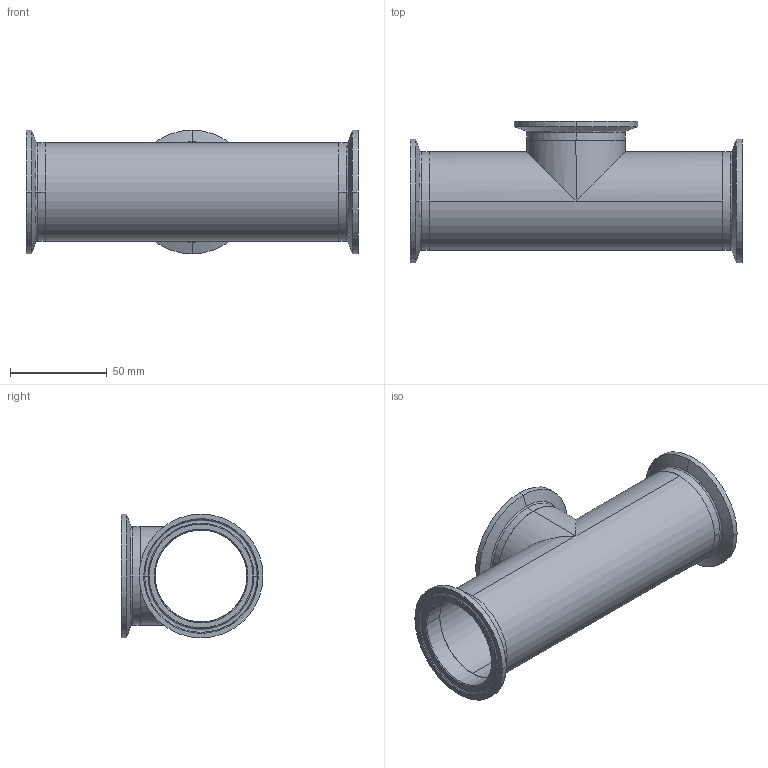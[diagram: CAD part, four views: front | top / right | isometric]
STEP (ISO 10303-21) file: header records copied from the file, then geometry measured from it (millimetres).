
FILE_DESCRIPTION (( 'STEP AP214' ), '1' );
FILE_NAME ('TEG7S6L2.0-...STEP', '2016-05-24T12:24:36', ( 'eran' ), ( '' ), 'SwSTEP 2.0', 'SolidWorks 2016', '' );
FILE_SCHEMA (( 'AUTOMOTIVE_DESIGN' ));
Length unit declared in the file: millimetre
Products named in the file (1): TEG7S6L2.0-..
Bounding box: 171.4 x 73.25 x 63.91 mm (x, y, z)
Volume: 59918.6 mm3; surface area: 65028.6 mm2
Topology: 4 solids, 4 shells, 88 faces, 220 edges, 142 vertices
Faces by surface type: bspline 30, cylinder 28, cone 18, plane 12
Entity records: 6052 total; most frequent: CARTESIAN_POINT 3914, DIRECTION 448, ORIENTED_EDGE 440, EDGE_CURVE 220, AXIS2_PLACEMENT_3D 200, VERTEX_POINT 142, CIRCLE 141, EDGE_LOOP 100
